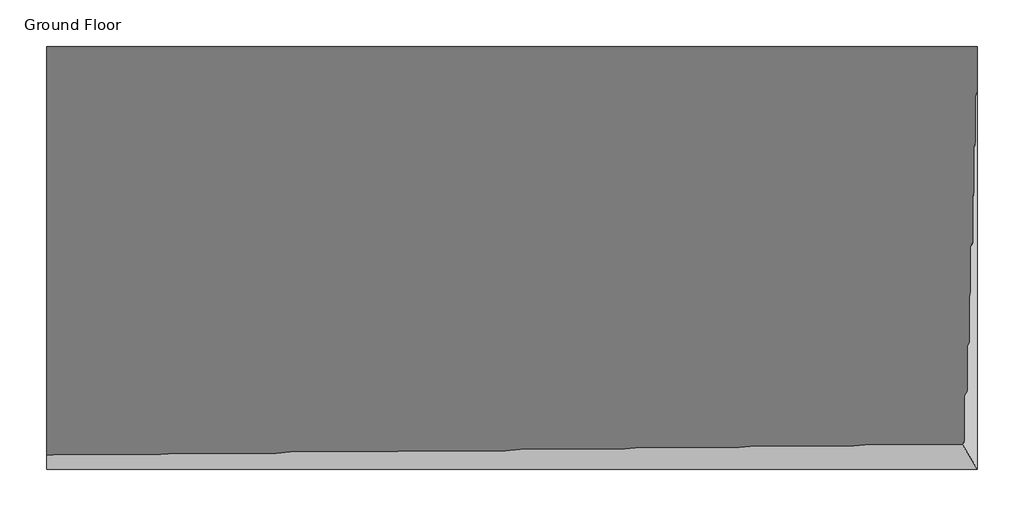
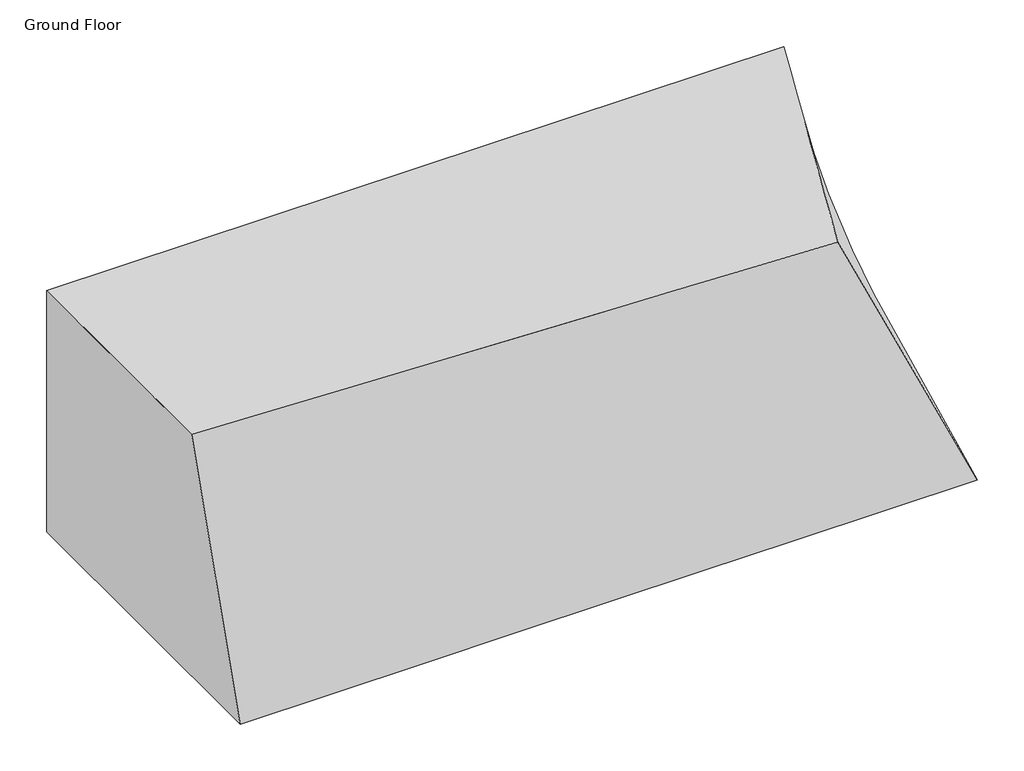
# One storey: 1 proxy.
"""IFC4 building model written with IfcOpenShell, lengths in millimetres."""

from ifc_helpers import new_model, si_unit, frame, origin, place, context, project, spatial, element, save
from ifc_brep_helpers import plane_surface, spline_surface, advanced_brep

model = new_model("IFC4")

# Units and contexts
model_context = context("Model", 3, world=origin())
ifc_project = project(units=[si_unit("LENGTHUNIT", "METRE", prefix="MILLI")], contexts=[model_context])

# Site, building, storey
site = spatial("IfcSite", under=ifc_project)
building = spatial("IfcBuilding", under=site)
storey = spatial("IfcBuildingStorey", under=building, Name="Ground Floor", Elevation=0.0)

# Proxy
placement = place(None, origin())
element("IfcBuildingElementProxy", 1, Name="Building 1 : Building 1", ObjectType="Building 1 : Building 1", at=placement, inside=storey, context=model_context, shape_type="AdvancedBrep", body=[
    advanced_brep(
    [(11884.7517396, -3348.7172324, 0.0), (-14515.2482604, -3348.7172324, 0.0), (-14515.2482604, -3348.7172324, 9144.0), (11884.7517396, -3348.7172324, 9144.0), (-14515.2482604, -15348.9172324, 0.0), (-14515.2482604, -12348.7172324, 9144.0), (11884.7517396, -15348.9172324, 0.0), (9320.0912881, -11129.275012, 7352.389606)],
    [
        (0, 1),
        (1, 2),
        (2, 3),
        (3, 0),
        (1, 4),
        (4, 5),
        (5, 2),
        (4, 6),
        (6, 7),
        (7, 5),
        (6, 0),
        (3, 7),
    ],
    [
        plane_surface(frame((-1315.2482604, -3348.7172324, 0.0), z_axis=(0.0, 1.0, 0.0), x_axis=(-1.0, 0.0, 0.0))),
        plane_surface(frame((-14515.2482604, -9348.8172324, 0.0), z_axis=(-1.0, 0.0, 0.0), x_axis=(0.0, -1.0, 0.0))),
        spline_surface(1, 1, [[(-14515.2482604, -15348.9172324, 0.0), (-14515.2482604, -12348.7172324, 9144.0)], [(11884.7517396, -15348.9172324, 0.0), (9320.0912881, -11129.275012, 7352.389606)]], [2, 2], [2, 2], [0.0, 1.0], [0.0, 1.0]),
        spline_surface(1, 1, [[(11884.7517396, -15348.9172324, 0.0), (9320.0912881, -11129.275012, 7352.389606)], [(11884.7517396, -3348.7172324, 0.0), (11884.7517396, -3348.7172324, 9144.0)]], [2, 2], [2, 2], [0.0, 1.0], [0.0, 1.0]),
        spline_surface(1, 1, [[(9320.0912881, -11129.275012, 7352.389606), (-14515.2482604, -12348.7172324, 9144.0)], [(11884.7517396, -3348.7172324, 9144.0), (-14515.2482604, -3348.7172324, 9144.0)]], [2, 2], [2, 2], [0.0, 1.0], [0.0, 1.0]),
        plane_surface(frame((-1315.2482604, -9348.8172324, 0.0), z_axis=(0.0, 0.0, -1.0), x_axis=(0.0, -1.0, 0.0))),
    ],
    [
        (0, [[1, 2, 3, 4]]),
        (1, [[5, 6, 7, -2]]),
        (2, [[8, 9, 10, -6]]),
        (3, [[11, -4, 12, -9]]),
        (4, [[-10, -12, -3, -7]]),
        (5, [[-11, -8, -5, -1]]),
    ],
),
])

save(model, "model.ifc")
